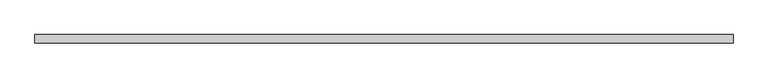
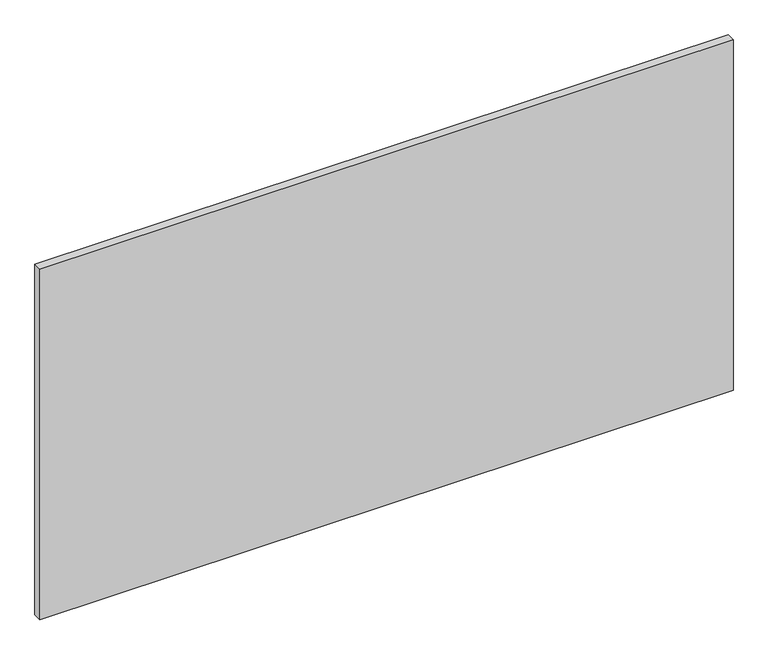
"""IFC4 building model written with IfcOpenShell, lengths in millimetres: plate geometry, 系统嵌板 : 玻璃."""

from ifc_helpers import new_model, si_unit, origin, origin_with_axes, place, context, project, spatial, polyline, outline, extrude, source, transform, mapped, element, save


def plate_7d49b9b0(model_context):
    return source(origin(), model_context, "Body", "SweptSolid", [
        extrude(outline(polyline([(1020.0, -12.5), (-1020.0, -12.5), (-1020.0, 12.5), (1020.0, 12.5), (1020.0, -12.5)])), origin_with_axes(), (0.0, 0.0, 1.0), 1090.0),
    ])


if __name__ == "__main__":
    model = new_model("IFC4")
    model_context = context("Model", 3, world=origin())
    ifc_project = project(units=[si_unit("LENGTHUNIT", "METRE", prefix="MILLI")], contexts=[model_context])
    site = spatial("IfcSite", under=ifc_project)
    building = spatial("IfcBuilding", under=site)
    placement = place(None, origin())
    plate_shape = plate_7d49b9b0(model_context)
    element("IfcPlate", 1, ObjectType="系统嵌板 : 玻璃", at=placement, inside=building, context=model_context, shape_type="MappedRepresentation", body=[
        mapped(plate_shape, transform((0.0, 0.0, 0.0), x_axis=(1.0, 0.0, 0.0), y_axis=(0.0, 1.0, 0.0), z_axis=(0.0, 0.0, 1.0))),
    ])
    save(model, "model.ifc")
